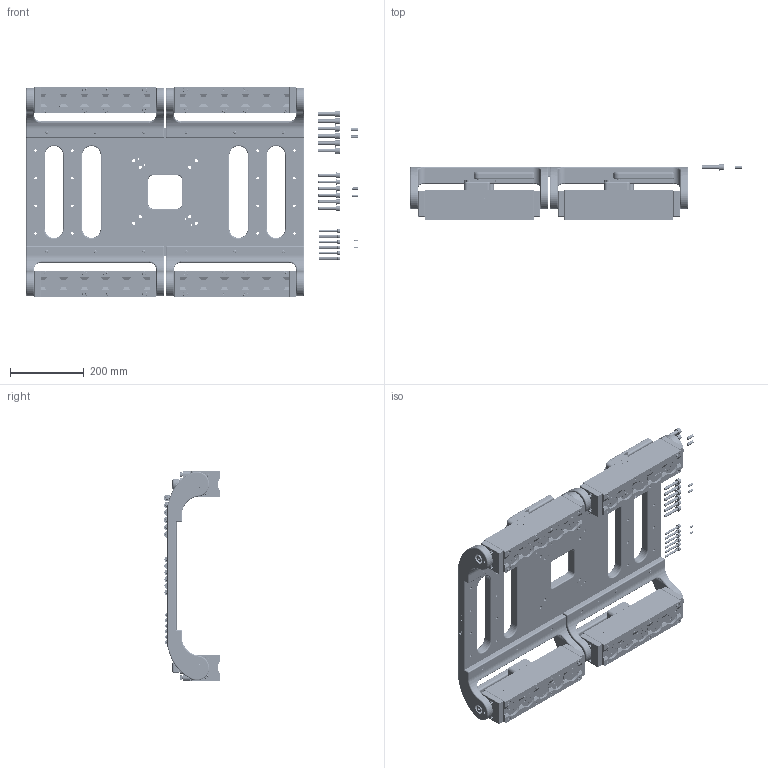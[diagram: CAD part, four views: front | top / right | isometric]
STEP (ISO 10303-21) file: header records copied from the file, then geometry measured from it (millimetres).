
FILE_DESCRIPTION (( 'STEP AP214' ), '1' );
FILE_NAME ('88002067_CFM.STEP', '2025-12-03T20:51:31', ( '' ), ( '' ), 'SwSTEP 2.0', 'SolidWorks 2024', '' );
FILE_SCHEMA (( 'AUTOMOTIVE_DESIGN' ));
Length unit declared in the file: millimetre
Products named in the file (14): M6x1.0 SHCS 12.9_1803286; 6X16 Vented Pull Out Dowel Pin Alloy STL_1802321; M8x1.25 SHCS 12.9_1801154; 88002113; 4X10 Vented Pull Out Dowel Pin Alloy STL_1803116; 3002751; M6 Flat Washer Stainless Steel_180180; M10 Flat Washer Stainless Steel_1802061; 88001778_CFM; 8X20 Vented Pull Out Dowel Pin Alloy STL_1802490; 88002091; M8 Flat Washer Stainless Steel_180707; M10x1.5 SHCS 12.9_1803287; 88002067_CFM
Assembly tree (49 placements, depth 4):
  88002067_CFM
    88001778_CFM  x4
    88002091
      3002751
      88002113
        M6x1.0 SHCS 12.9_1803286  x6
        M8x1.25 SHCS 12.9_1801154  x6
        M10x1.5 SHCS 12.9_1803287  x6
        M6 Flat Washer Stainless Steel_180180  x6
        M8 Flat Washer Stainless Steel_180707  x6
        M10 Flat Washer Stainless Steel_1802061  x6
        6X16 Vented Pull Out Dowel Pin Alloy STL_1802321  x2
        8X20 Vented Pull Out Dowel Pin Alloy STL_1802490  x2
        4X10 Vented Pull Out Dowel Pin Alloy STL_1803116  x2
Bounding box: 902.8 x 152 x 571 mm (x, y, z)
Volume: 16121711.8 mm3; surface area: 2304888.4 mm2
Topology: 339 solids, 387 shells, 30292 faces, 77546 edges, 50526 vertices
Faces by surface type: plane 16755, bspline 9576, cylinder 2209, cone 1410, torus 290, sphere 52
Full cylindrical faces by diameter (mm): 2.5 x10, 2.87 x4, 3 x2, 3.2 x4, 3.3 x4, 3.4 x2, 4 x24, 5 x44, 5.6 x16, 6 x30, 6.1 x8, 6.2 x4, 6.4 x30, 6.6 x16, 6.8 x56, 7 x48, 8 x346, 8.2 x32, 8.254 x8, 8.4 x6, 8.5 x24, 8.6 x12, 8.9 x4, 9 x16, 9.2 x8, 10 x52, 10.8 x8, 10.9 x4, 11 x20, 11.2 x4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
Entity records: 446760 total; most frequent: CARTESIAN_POINT 245349, ORIENTED_EDGE 45460, DIRECTION 31895, EDGE_CURVE 22730, VERTEX_POINT 15126, LINE 14669, VECTOR 14669, EDGE_LOOP 10454
